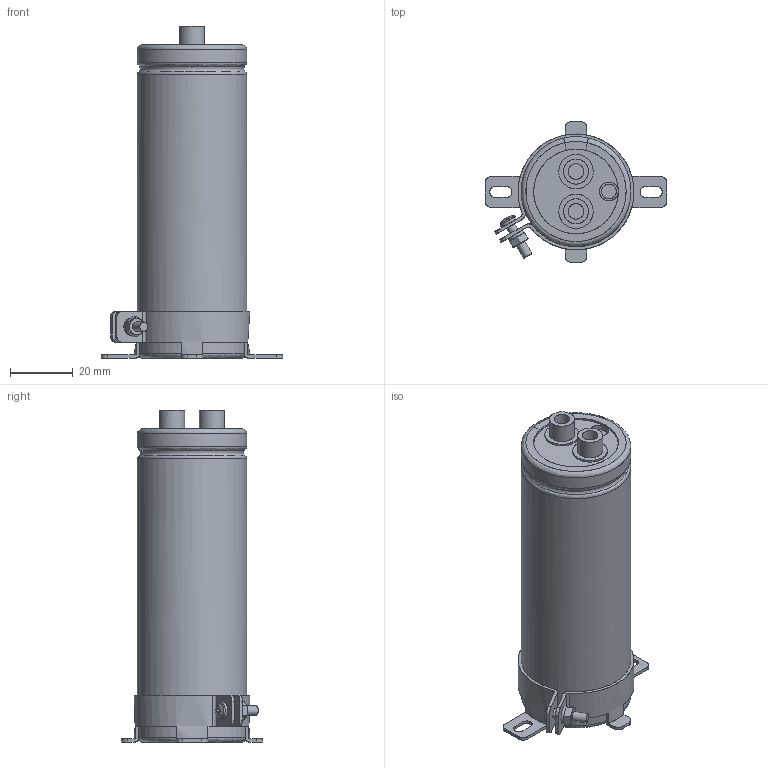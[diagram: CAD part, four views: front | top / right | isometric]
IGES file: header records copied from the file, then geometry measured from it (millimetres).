
Start section: JAMA-IS VERSION  1.0
Bounding box: 58 x 45 x 106 mm (x, y, z)
Surface area: 40492.8 mm2 (no closed solid volume)
Topology: 0 solids, 0 shells, 171 faces, 3555 edges, 3522 vertices
Faces by surface type: bspline 171
